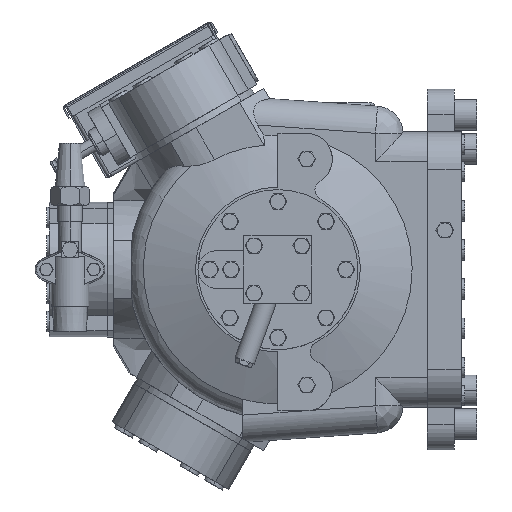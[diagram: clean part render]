
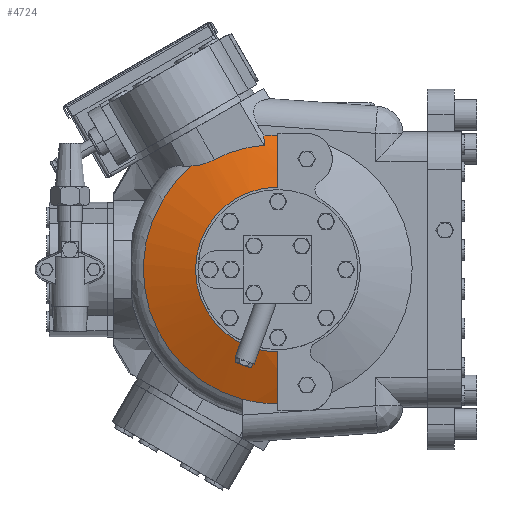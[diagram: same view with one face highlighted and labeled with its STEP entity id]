
A CAD part, left-side view. The second image highlights one B-rep face of the part: STEP entity #4724.
In plain terms, the highlighted spherical face has radius 279.4 mm.
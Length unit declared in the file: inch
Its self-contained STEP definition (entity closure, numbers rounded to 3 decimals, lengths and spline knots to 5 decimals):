
#753=CARTESIAN_POINT('',(-14.63,0.,0.));
#754=DIRECTION('',(1.,0.,0.));
#755=DIRECTION('',(0.,0.104,0.995));
#756=AXIS2_PLACEMENT_3D('',#753,#754,#755);
#861=CARTESIAN_POINT('',(-4.8,1.3,0.));
#862=DIRECTION('',(0.,1.,0.));
#863=DIRECTION('',(-0.899,0.,-0.437));
#864=AXIS2_PLACEMENT_3D('',#861,#862,#863);
#953=CARTESIAN_POINT('',(-14.62331,0.,0.));
#954=DIRECTION('',(-1.,0.,0.));
#955=DIRECTION('',(0.,0.638,0.77));
#956=AXIS2_PLACEMENT_3D('',#953,#954,#955);
#1464=CARTESIAN_POINT('',(-15.37446,0.,0.));
#1465=DIRECTION('',(-1.,0.,0.));
#1466=DIRECTION('',(0.,0.,1.));
#1467=AXIS2_PLACEMENT_3D('',#1464,#1465,#1466);
#1469=CARTESIAN_POINT('',(-14.62331,3.15897,3.81096));
#1470=CARTESIAN_POINT('',(-14.65536,3.05276,3.81639));
#1471=CARTESIAN_POINT('',(-14.70722,2.84887,3.84206));
#1472=CARTESIAN_POINT('',(-14.75105,2.57329,3.92187));
#1473=CARTESIAN_POINT('',(-14.76,2.41051,3.99944));
#1474=CARTESIAN_POINT('',(-14.76,2.33444,4.04336));
#1476=CARTESIAN_POINT('',(-14.75697,0.15051,
-0.0869));
#1477=DIRECTION('',(1.,-0.015,0.009));
#1478=DIRECTION('',(-0.001,0.467,0.884));
#1479=AXIS2_PLACEMENT_3D('',#1476,#1477,#1478);
#1481=CARTESIAN_POINT('',(-10.72115,-5.12786,
2.96057));
#1482=DIRECTION('',(0.707,0.612,-0.354));
#1483=DIRECTION('',(-0.571,0.789,0.226));
#1484=AXIS2_PLACEMENT_3D('',#1481,#1482,#1483);
#1486=CARTESIAN_POINT('',(-4.8,0.,0.));
#1487=DIRECTION('',(0.,1.,0.));
#1488=DIRECTION('',(-0.961,0.,0.275));
#1489=AXIS2_PLACEMENT_3D('',#1486,#1487,#1488);
#1622=CARTESIAN_POINT('',(-14.63,0.,0.));
#1623=DIRECTION('',(1.,0.,0.));
#1624=DIRECTION('',(0.,0.,-1.));
#1625=AXIS2_PLACEMENT_3D('',#1622,#1623,#1624);
#1635=CARTESIAN_POINT('',(-4.8,0.,0.));
#1636=DIRECTION('',(0.,-1.,0.));
#1637=DIRECTION('',(-0.961,0.,-0.275));
#1638=AXIS2_PLACEMENT_3D('',#1635,#1636,#1637);
#1817=CARTESIAN_POINT('',(-15.37446,0.,3.03));
#1818=CARTESIAN_POINT('',(-14.63,0.,4.93671));
#1819=VERTEX_POINT('',#1817);
#1820=VERTEX_POINT('',#1818);
#1821=CARTESIAN_POINT('',(-15.37446,0.,-3.03));
#1822=VERTEX_POINT('',#1821);
#1823=CARTESIAN_POINT('',(-14.62331,3.15897,3.81096));
#1824=CARTESIAN_POINT('',(-14.62331,1.3,
-4.77624));
#1825=VERTEX_POINT('',#1823);
#1826=VERTEX_POINT('',#1824);
#1827=VERTEX_POINT('',#1474);
#1862=CARTESIAN_POINT('',(-14.63,0.,-4.93671));
#1863=VERTEX_POINT('',#1862);
#1865=CARTESIAN_POINT('',(-14.63,0.51129,4.91016));
#1867=VERTEX_POINT('',#1865);
#1994=CARTESIAN_POINT('',(-14.79229,0.5033,
4.57174));
#1996=VERTEX_POINT('',#1994);
#2234=CARTESIAN_POINT('',(-14.63,1.3,-4.76247));
#2235=VERTEX_POINT('',#2234);
#4703=CARTESIAN_POINT('',(-4.8,0.,0.));
#4704=DIRECTION('',(-1.,0.,0.));
#4705=DIRECTION('',(0.,1.,0.));
#4706=AXIS2_PLACEMENT_3D('',#4703,#4704,#4705);
#4707=SPHERICAL_SURFACE('',#4706,11.);
#4709=ORIENTED_EDGE('',*,*,#4708,.F.);
#4711=ORIENTED_EDGE('',*,*,#4710,.T.);
#4713=ORIENTED_EDGE('',*,*,#4712,.T.);
#4715=ORIENTED_EDGE('',*,*,#4714,.T.);
#4716=ORIENTED_EDGE('',*,*,#3612,.F.);
#4717=ORIENTED_EDGE('',*,*,#3828,.F.);
#4718=ORIENTED_EDGE('',*,*,#3893,.T.);
#4719=ORIENTED_EDGE('',*,*,#3915,.T.);
#4720=ORIENTED_EDGE('',*,*,#3939,.T.);
#4721=ORIENTED_EDGE('',*,*,#3448,.T.);
#4722=EDGE_LOOP('',(#4709,#4711,#4713,#4715,#4716,#4717,#4718,#4719,#4720,
#4721));
#4723=FACE_OUTER_BOUND('',#4722,.F.);
#4724=ADVANCED_FACE('',(#4723),#4707,.T.);
#757=CIRCLE('',#756,4.93671);
#865=CIRCLE('',#864,10.92291);
#957=CIRCLE('',#956,4.95);
#1468=CIRCLE('',#1467,3.03);
#1475=B_SPLINE_CURVE_WITH_KNOTS('',3,(#1469,#1470,#1471,#1472,#1473,#1474),
.UNSPECIFIED.,.F.,.F.,(4,1,1,4),(0.,0.33333,0.66667,1.),
.UNSPECIFIED.);
#1480=CIRCLE('',#1479,4.67211);
#1485=CIRCLE('',#1484,7.13303);
#1490=CIRCLE('',#1489,11.);
#1626=CIRCLE('',#1625,4.93671);
#1639=CIRCLE('',#1638,11.);
#3448=EDGE_CURVE('',#1867,#1820,#757,.T.);
#3612=EDGE_CURVE('',#1826,#2235,#865,.T.);
#3828=EDGE_CURVE('',#1825,#1826,#957,.T.);
#3893=EDGE_CURVE('',#1825,#1827,#1475,.T.);
#3915=EDGE_CURVE('',#1827,#1996,#1480,.T.);
#3939=EDGE_CURVE('',#1996,#1867,#1485,.T.);
#4708=EDGE_CURVE('',#1819,#1820,#1490,.T.);
#4710=EDGE_CURVE('',#1819,#1822,#1468,.T.);
#4712=EDGE_CURVE('',#1822,#1863,#1639,.T.);
#4714=EDGE_CURVE('',#1863,#2235,#1626,.T.);
